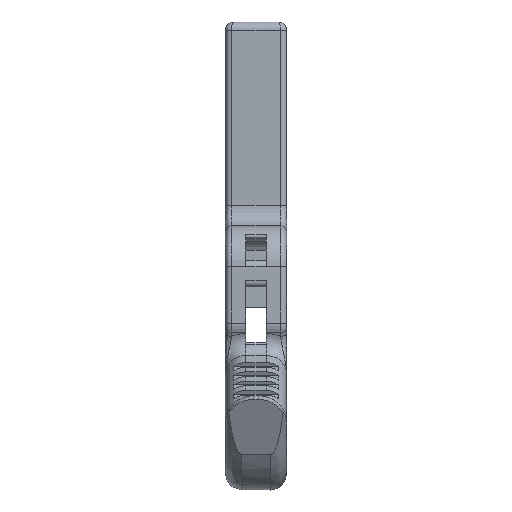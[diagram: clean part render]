
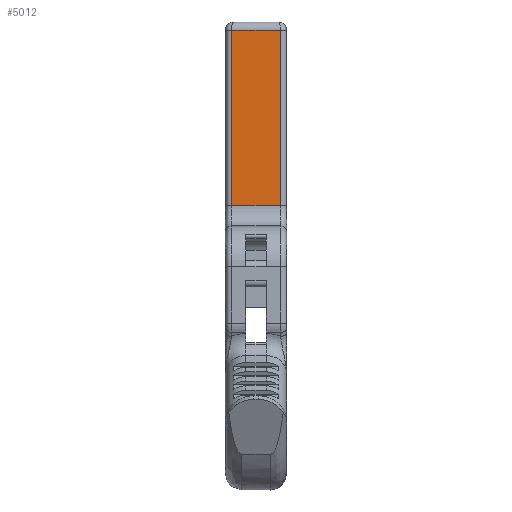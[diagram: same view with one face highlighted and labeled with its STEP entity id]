
A CAD part, front view. The second image highlights one B-rep face of the part: STEP entity #5012.
In plain terms, the highlighted planar face has unit normal (0, -1, 0).
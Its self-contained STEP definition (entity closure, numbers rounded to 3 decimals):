
#494=FACE_OUTER_BOUND('',#790,.T.);
#790=EDGE_LOOP('',(#4132,#4133,#4134,#4135));
#1268=LINE('',#7721,#1645);
#1448=LINE('',#9720,#1825);
#1451=LINE('',#9808,#1828);
#1452=LINE('',#9809,#1829);
#1645=VECTOR('',#5993,10.);
#1825=VECTOR('',#6709,90.);
#1828=VECTOR('',#6742,24.);
#1829=VECTOR('',#6743,90.);
#2048=VERTEX_POINT('',#7622);
#2049=VERTEX_POINT('',#7661);
#2305=VERTEX_POINT('',#9718);
#2309=VERTEX_POINT('',#9807);
#2578=EDGE_CURVE('',#2048,#2049,#1268,.T.);
#2967=EDGE_CURVE('',#2305,#2048,#1448,.T.);
#2979=EDGE_CURVE('',#2309,#2305,#1451,.T.);
#2980=EDGE_CURVE('',#2049,#2309,#1452,.T.);
#4132=ORIENTED_EDGE('',*,*,#2578,.F.);
#4133=ORIENTED_EDGE('',*,*,#2967,.F.);
#4134=ORIENTED_EDGE('',*,*,#2979,.F.);
#4135=ORIENTED_EDGE('',*,*,#2980,.F.);
#4786=PLANE('',#5507);
#5012=ADVANCED_FACE('',(#494),#4786,.T.);
#5507=AXIS2_PLACEMENT_3D('',#9806,#6740,#6741);
#5993=DIRECTION('',(1.,0.,0.));
#6709=DIRECTION('',(0.,0.,1.));
#6740=DIRECTION('center_axis',(0.,-1.,0.));
#6741=DIRECTION('ref_axis',(0.,0.,-1.));
#6742=DIRECTION('',(-1.,0.,0.));
#6743=DIRECTION('',(0.,0.,-1.));
#7622=CARTESIAN_POINT('',(-12.,-40.,-24.));
#7661=CARTESIAN_POINT('',(12.,-40.,-24.));
#7721=CARTESIAN_POINT('',(0.,-40.,-24.));
#9718=CARTESIAN_POINT('',(-12.,-40.,-110.));
#9720=CARTESIAN_POINT('',(-12.,-40.,-110.));
#9806=CARTESIAN_POINT('Origin',(0.,-40.,-120.));
#9807=CARTESIAN_POINT('',(12.,-40.,-110.));
#9808=CARTESIAN_POINT('',(12.,-40.,-110.));
#9809=CARTESIAN_POINT('',(12.,-40.,-20.));
